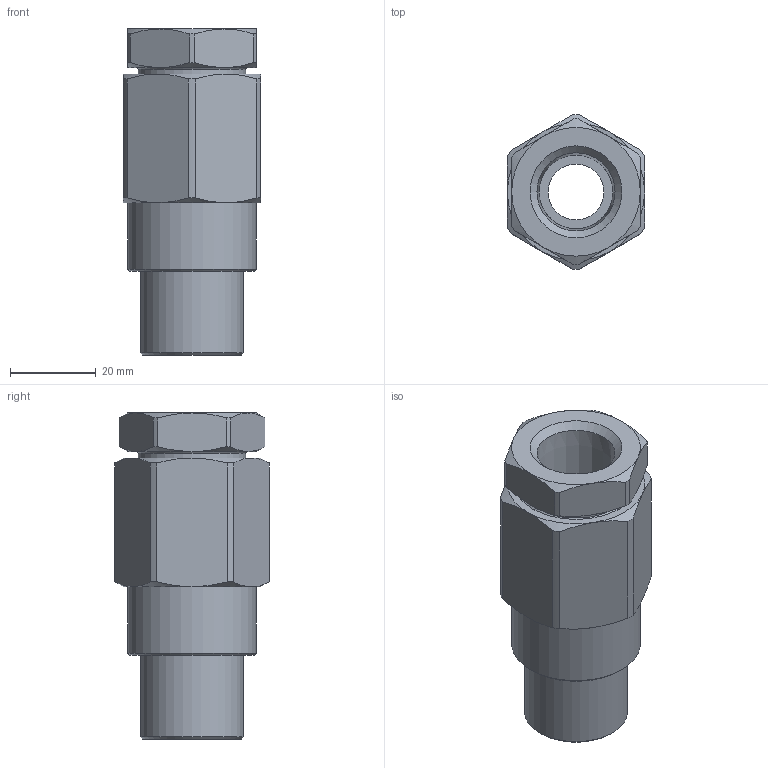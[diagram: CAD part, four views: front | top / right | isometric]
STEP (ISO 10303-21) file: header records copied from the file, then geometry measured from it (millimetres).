
FILE_DESCRIPTION((''),'2;1');
FILE_NAME('C:\Users\A.V.Nesterov\Desktop\111\3D\ТЗ\ТЗ 109154\ТСВВА1NНК_М2.stp','2024-08-01T07:54:54',('A.V.Nesterov'),(''),'Autodesk Inventor 2012','Autodesk Inventor 2012','');
FILE_SCHEMA(('AUTOMOTIVE_DESIGN { 1 0 10303 214 1 1 1 1 }'));
Length unit declared in the file: millimetre
Products named in the file (1): ТСВВА1NНК_М2
Bounding box: 32 x 36 x 76 mm (x, y, z)
Surface area: 21204.6 mm2 (no closed solid volume)
Topology: 0 solids, 4 shells, 102 faces, 225 edges, 136 vertices
Faces by surface type: plane 37, cone 36, cylinder 28, torus 1
Full cylindrical faces by diameter (mm): 13 x1, 16 x1, 17 x1, 24 x2, 25 x1, 25.1 x1, 25.376 x1, 27 x1, 30 x1
Entity records: 2656 total; most frequent: CARTESIAN_POINT 535, DIRECTION 458, ORIENTED_EDGE 402, AXIS2_PLACEMENT_3D 202, EDGE_CURVE 201, EDGE_LOOP 138, VERTEX_POINT 135, FACE_OUTER_BOUND 102
